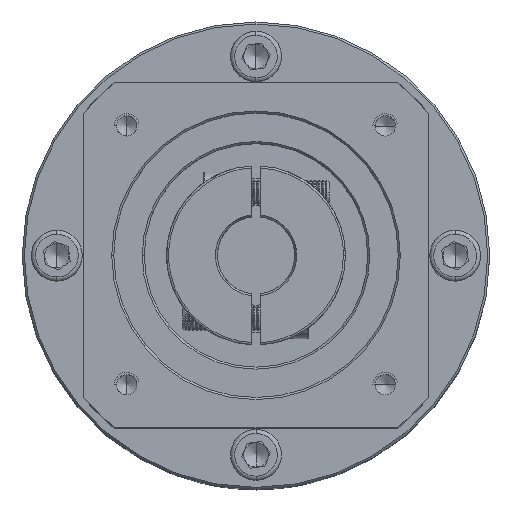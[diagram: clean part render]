
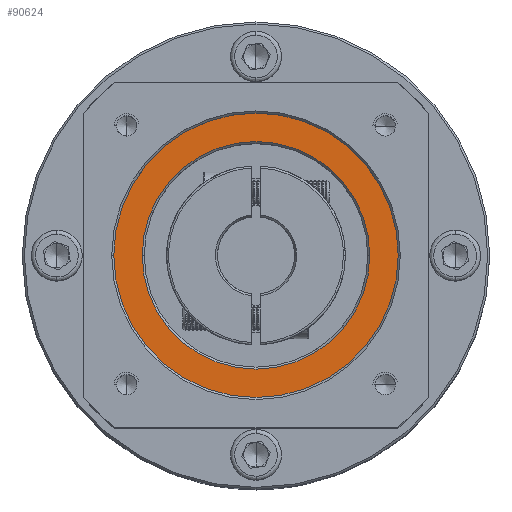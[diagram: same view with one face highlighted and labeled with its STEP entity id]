
A CAD part, top view. The second image highlights one B-rep face of the part: STEP entity #90624.
In plain terms, the highlighted planar face has unit normal (0, 0, 1).
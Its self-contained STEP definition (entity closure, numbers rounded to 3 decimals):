
#1124 = CIRCLE ( 'NONE', #52313, 28. ) ;
#8246 = EDGE_CURVE ( 'NONE', #39611, #32698, #86253, .T. ) ;
#8623 = AXIS2_PLACEMENT_3D ( 'NONE', #94530, #26096, #84514 ) ;
#13897 = ORIENTED_EDGE ( 'NONE', *, *, #77448, .T. ) ;
#16183 = CIRCLE ( 'NONE', #35660, 35. ) ;
#18554 = ORIENTED_EDGE ( 'NONE', *, *, #8246, .T. ) ;
#19729 = CARTESIAN_POINT ( 'NONE',  ( 63.454, -20.38, 31.029 ) ) ;
#22996 = CARTESIAN_POINT ( 'NONE',  ( 70.454, -20.38, 31.029 ) ) ;
#23386 = CARTESIAN_POINT ( 'NONE',  ( 98.454, -20.38, 31.029 ) ) ;
#26096 = DIRECTION ( 'NONE',  ( 0., 0., -1. ) ) ;
#27503 = CARTESIAN_POINT ( 'NONE',  ( 98.454, -20.38, 31.029 ) ) ;
#27868 = DIRECTION ( 'NONE',  ( 1., 0., 0. ) ) ;
#28443 = ORIENTED_EDGE ( 'NONE', *, *, #87794, .T. ) ;
#29602 = VERTEX_POINT ( 'NONE', #42169 ) ;
#32698 = VERTEX_POINT ( 'NONE', #61755 ) ;
#33775 = DIRECTION ( 'NONE',  ( 1., 0., 0. ) ) ;
#34298 = FACE_OUTER_BOUND ( 'NONE', #104064, .T. ) ;
#34655 = AXIS2_PLACEMENT_3D ( 'NONE', #48756, #88318, #105441 ) ;
#35500 = AXIS2_PLACEMENT_3D ( 'NONE', #114717, #103873, #27868 ) ;
#35660 = AXIS2_PLACEMENT_3D ( 'NONE', #23386, #119037, #33775 ) ;
#36346 = EDGE_CURVE ( 'NONE', #29602, #82387, #16183, .T. ) ;
#39611 = VERTEX_POINT ( 'NONE', #22996 ) ;
#42169 = CARTESIAN_POINT ( 'NONE',  ( 133.454, -20.38, 31.029 ) ) ;
#48756 = CARTESIAN_POINT ( 'NONE',  ( 98.454, -20.38, 31.029 ) ) ;
#52313 = AXIS2_PLACEMENT_3D ( 'NONE', #27503, #97619, #107662 ) ;
#61755 = CARTESIAN_POINT ( 'NONE',  ( 126.454, -20.38, 31.029 ) ) ;
#63304 = ORIENTED_EDGE ( 'NONE', *, *, #36346, .T. ) ;
#77448 = EDGE_CURVE ( 'NONE', #82387, #29602, #97612, .T. ) ;
#77828 = FACE_BOUND ( 'NONE', #78810, .T. ) ;
#78810 = EDGE_LOOP ( 'NONE', ( #28443, #18554 ) ) ;
#82387 = VERTEX_POINT ( 'NONE', #19729 ) ;
#84514 = DIRECTION ( 'NONE',  ( 1., 0., 0. ) ) ;
#86253 = CIRCLE ( 'NONE', #8623, 28. ) ;
#87794 = EDGE_CURVE ( 'NONE', #32698, #39611, #1124, .T. ) ;
#88318 = DIRECTION ( 'NONE',  ( 0., 0., 1. ) ) ;
#90624 = ADVANCED_FACE ( 'NONE', ( #34298, #77828 ), #106293, .T. ) ;
#94530 = CARTESIAN_POINT ( 'NONE',  ( 98.454, -20.38, 31.029 ) ) ;
#97612 = CIRCLE ( 'NONE', #35500, 35. ) ;
#97619 = DIRECTION ( 'NONE',  ( 0., 0., -1. ) ) ;
#103873 = DIRECTION ( 'NONE',  ( 0., 0., 1. ) ) ;
#104064 = EDGE_LOOP ( 'NONE', ( #63304, #13897 ) ) ;
#105441 = DIRECTION ( 'NONE',  ( 1., 0., 0. ) ) ;
#106293 = PLANE ( 'NONE',  #34655 ) ;
#107662 = DIRECTION ( 'NONE',  ( 1., 0., 0. ) ) ;
#114717 = CARTESIAN_POINT ( 'NONE',  ( 98.454, -20.38, 31.029 ) ) ;
#119037 = DIRECTION ( 'NONE',  ( 0., 0., 1. ) ) ;
